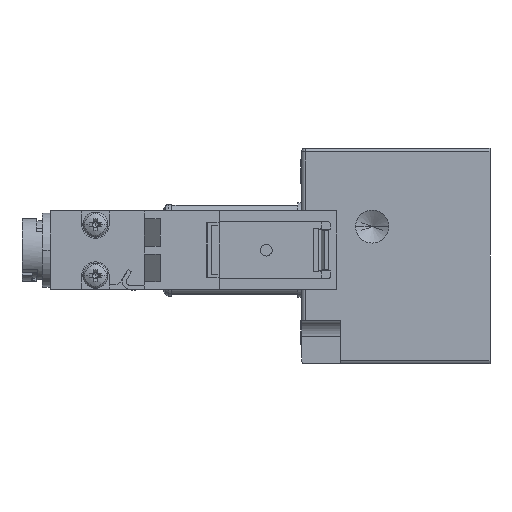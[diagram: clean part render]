
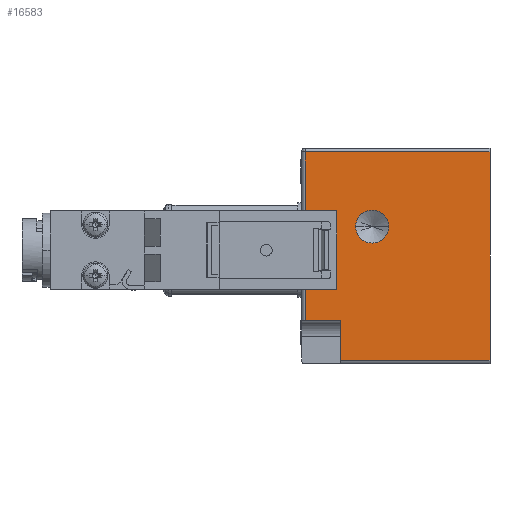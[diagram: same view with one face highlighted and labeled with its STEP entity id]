
A CAD part, left-side view. The second image highlights one B-rep face of the part: STEP entity #16583.
In plain terms, the highlighted planar face has unit normal (-1, 0, 0).
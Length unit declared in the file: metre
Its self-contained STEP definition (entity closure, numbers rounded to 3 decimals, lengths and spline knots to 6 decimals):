
#105 = FACE_BOUND ( 'NONE', #14692, .T. ) ;
#445 = CARTESIAN_POINT ( 'NONE',  ( -0.0225, -0.009, 0.003 ) ) ;
#479 = DIRECTION ( 'NONE',  ( 0., 0., 1. ) ) ;
#964 = AXIS2_PLACEMENT_3D ( 'NONE', #445, #11075, #1968 ) ;
#1781 = VECTOR ( 'NONE', #4729, 1. ) ;
#1968 = DIRECTION ( 'NONE',  ( 0., -1., 0. ) ) ;
#2336 = DIRECTION ( 'NONE',  ( 0., -1., 0. ) ) ;
#3370 = VECTOR ( 'NONE', #2336, 1. ) ;
#3511 = ORIENTED_EDGE ( 'NONE', *, *, #18463, .T. ) ;
#3868 = CARTESIAN_POINT ( 'NONE',  ( -0.0225, -0.009, 0.003 ) ) ;
#4073 = VERTEX_POINT ( 'NONE', #10301 ) ;
#4454 = DIRECTION ( 'NONE',  ( 0., 0., -1. ) ) ;
#4472 = EDGE_CURVE ( 'NONE', #14152, #10599, #8737, .T. ) ;
#4729 = DIRECTION ( 'NONE',  ( 0., -1., 0. ) ) ;
#5243 = VERTEX_POINT ( 'NONE', #11443 ) ;
#5378 = DIRECTION ( 'NONE',  ( 0., -1., 0. ) ) ;
#5400 = CARTESIAN_POINT ( 'NONE',  ( -0.0225, -0.0111, 0.003 ) ) ;
#5634 = EDGE_CURVE ( 'NONE', #13898, #5243, #9896, .T. ) ;
#5636 = VECTOR ( 'NONE', #11235, 1. ) ;
#5929 = ORIENTED_EDGE ( 'NONE', *, *, #4472, .F. ) ;
#5961 = CARTESIAN_POINT ( 'NONE',  ( -0.0225, -0.005, -0.00075 ) ) ;
#6326 = CARTESIAN_POINT ( 'NONE',  ( -0.0225, -0.01225, 0.0125 ) ) ;
#6924 = DIRECTION ( 'NONE',  ( 0., 0., 1. ) ) ;
#7195 = EDGE_CURVE ( 'NONE', #10599, #14152, #13437, .T. ) ;
#8737 = CIRCLE ( 'NONE', #964, 0.0021 ) ;
#8742 = EDGE_LOOP ( 'NONE', ( #13785, #19084, #19527, #14333, #3511, #14146 ) ) ;
#9624 = VECTOR ( 'NONE', #479, 1. ) ;
#9854 = CARTESIAN_POINT ( 'NONE',  ( -0.0225, -0.024, -0.014 ) ) ;
#9896 = LINE ( 'NONE', #15435, #1781 ) ;
#9966 = VERTEX_POINT ( 'NONE', #15046 ) ;
#10301 = CARTESIAN_POINT ( 'NONE',  ( -0.0225, -0.024, -0.014 ) ) ;
#10599 = VERTEX_POINT ( 'NONE', #17524 ) ;
#10772 = EDGE_CURVE ( 'NONE', #5243, #9966, #15217, .T. ) ;
#10837 = DIRECTION ( 'NONE',  ( 0., 1., 0. ) ) ;
#11075 = DIRECTION ( 'NONE',  ( -1., 0., 0. ) ) ;
#11161 = VECTOR ( 'NONE', #4454, 1. ) ;
#11235 = DIRECTION ( 'NONE',  ( 0., 0., -1. ) ) ;
#11443 = CARTESIAN_POINT ( 'NONE',  ( -0.0225, -0.005, -0.009 ) ) ;
#11933 = LINE ( 'NONE', #17536, #3370 ) ;
#12402 = EDGE_CURVE ( 'NONE', #18973, #13898, #13754, .T. ) ;
#13014 = PLANE ( 'NONE',  #18903 ) ;
#13158 = AXIS2_PLACEMENT_3D ( 'NONE', #3868, #14502, #5378 ) ;
#13437 = CIRCLE ( 'NONE', #13158, 0.0021 ) ;
#13700 = LINE ( 'NONE', #14259, #9624 ) ;
#13754 = LINE ( 'NONE', #18849, #5636 ) ;
#13785 = ORIENTED_EDGE ( 'NONE', *, *, #13924, .T. ) ;
#13898 = VERTEX_POINT ( 'NONE', #16937 ) ;
#13924 = EDGE_CURVE ( 'NONE', #18996, #18973, #17277, .T. ) ;
#14146 = ORIENTED_EDGE ( 'NONE', *, *, #16456, .T. ) ;
#14152 = VERTEX_POINT ( 'NONE', #5400 ) ;
#14259 = CARTESIAN_POINT ( 'NONE',  ( -0.0225, -0.024, -0.00075 ) ) ;
#14333 = ORIENTED_EDGE ( 'NONE', *, *, #10772, .T. ) ;
#14502 = DIRECTION ( 'NONE',  ( -1., 0., 0. ) ) ;
#14692 = EDGE_LOOP ( 'NONE', ( #5929, #17191 ) ) ;
#15046 = CARTESIAN_POINT ( 'NONE',  ( -0.0225, -0.005, -0.014 ) ) ;
#15217 = LINE ( 'NONE', #5961, #11161 ) ;
#15435 = CARTESIAN_POINT ( 'NONE',  ( -0.0225, -0.01225, -0.009 ) ) ;
#15634 = CARTESIAN_POINT ( 'NONE',  ( -0.0225, -0.0005, 0.0125 ) ) ;
#16061 = DIRECTION ( 'NONE',  ( -1., 0., 0. ) ) ;
#16312 = FACE_OUTER_BOUND ( 'NONE', #8742, .T. ) ;
#16456 = EDGE_CURVE ( 'NONE', #4073, #18996, #13700, .T. ) ;
#16583 = ADVANCED_FACE ( 'NONE', ( #105, #16312 ), #13014, .T. ) ;
#16793 = VECTOR ( 'NONE', #10837, 1. ) ;
#16937 = CARTESIAN_POINT ( 'NONE',  ( -0.0225, -0.0005, -0.009 ) ) ;
#17191 = ORIENTED_EDGE ( 'NONE', *, *, #7195, .F. ) ;
#17277 = LINE ( 'NONE', #6326, #16793 ) ;
#17524 = CARTESIAN_POINT ( 'NONE',  ( -0.0225, -0.0069, 0.003 ) ) ;
#17536 = CARTESIAN_POINT ( 'NONE',  ( -0.0225, -0.01225, -0.014 ) ) ;
#18463 = EDGE_CURVE ( 'NONE', #9966, #4073, #11933, .T. ) ;
#18766 = CARTESIAN_POINT ( 'NONE',  ( -0.0225, -0.024, 0.0125 ) ) ;
#18849 = CARTESIAN_POINT ( 'NONE',  ( -0.0225, -0.0005, -0.00075 ) ) ;
#18903 = AXIS2_PLACEMENT_3D ( 'NONE', #9854, #16061, #6924 ) ;
#18973 = VERTEX_POINT ( 'NONE', #15634 ) ;
#18996 = VERTEX_POINT ( 'NONE', #18766 ) ;
#19084 = ORIENTED_EDGE ( 'NONE', *, *, #12402, .T. ) ;
#19527 = ORIENTED_EDGE ( 'NONE', *, *, #5634, .T. ) ;
